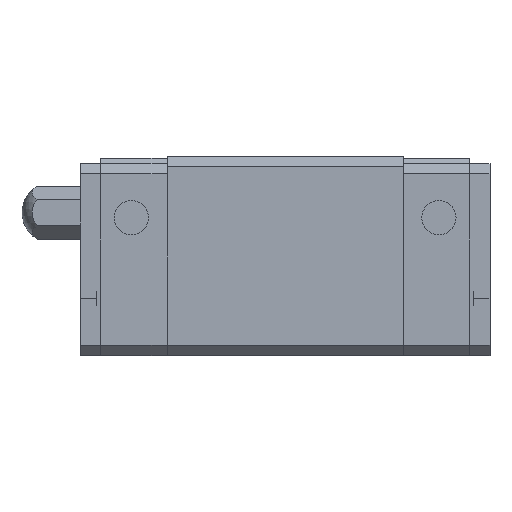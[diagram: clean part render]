
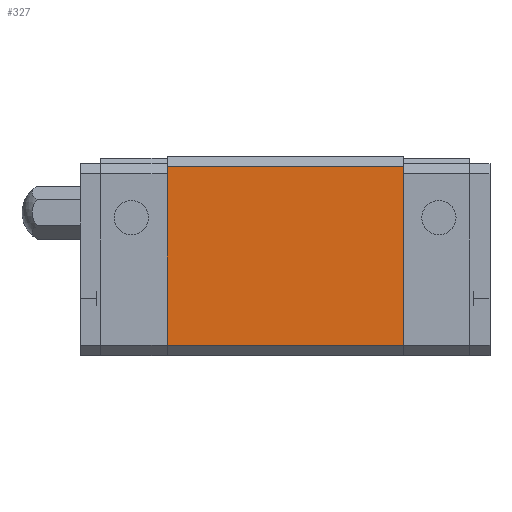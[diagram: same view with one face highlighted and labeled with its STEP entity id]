
A CAD part, front view. The second image highlights one B-rep face of the part: STEP entity #327.
In plain terms, the highlighted planar face has unit normal (0, -1, 0).
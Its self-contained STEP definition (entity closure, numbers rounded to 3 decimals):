
#266=CARTESIAN_POINT('POINT18',(31.6,-17.,
   1.));
#267=VERTEX_POINT('VERTEX18',#266);
#274=CARTESIAN_POINT('POINT19',(8.5,-17.,1.
   ));
#275=VERTEX_POINT('VERTEX19',#274);
#276=CARTESIAN_POINT('POS29',(8.5,-17.,1.))
   ;
#277=DIRECTION('DIR42',(1.,0.,0.));
#278=VECTOR('VEC16',#277,1.);
#279=LINE('STRAIGHT16',#276,#278);
#280=EDGE_CURVE('EDGE28',#275,#267,#279,.T.);
#297=CARTESIAN_POINT('POINT20',(31.6,-17.,18.5));
#298=VERTEX_POINT('VERTEX20',#297);
#299=CARTESIAN_POINT('POS32',(31.6,-17.,1.)
   );
#300=DIRECTION('DIR46',(0.,0.,1.));
#301=VECTOR('VEC18',#300,1.);
#302=LINE('STRAIGHT18',#299,#301);
#303=EDGE_CURVE('EDGE30',#267,#298,#302,.T.);
#304=ORIENTED_EDGE('COEDGE51',*,*,#303,.T.);
#305=CARTESIAN_POINT('POINT21',(8.5,-17.,18.5));
#306=VERTEX_POINT('VERTEX21',#305);
#307=CARTESIAN_POINT('POS33',(8.5,-17.,18.5));
#308=DIRECTION('DIR47',(1.,0.,0.));
#309=VECTOR('VEC19',#308,1.);
#310=LINE('STRAIGHT19',#307,#309);
#311=EDGE_CURVE('EDGE31',#306,#298,#310,.T.);
#312=ORIENTED_EDGE('COEDGE52',*,*,#311,.F.);
#313=CARTESIAN_POINT('POS34',(8.5,-17.,1.))
   ;
#314=DIRECTION('DIR48',(0.,0.,1.));
#315=VECTOR('VEC20',#314,1.);
#316=LINE('STRAIGHT20',#313,#315);
#317=EDGE_CURVE('EDGE32',#275,#306,#316,.T.);
#318=ORIENTED_EDGE('COEDGE53',*,*,#317,.F.);
#319=ORIENTED_EDGE('COEDGE54',*,*,#280,.T.);
#320=EDGE_LOOP('NONE',(#304,#312,#318,#319));
#321=FACE_BOUND('LOOP1',#320,.T.);
#322=CARTESIAN_POINT('POS35',(8.5,-17.,1.))
   ;
#323=DIRECTION('DIR49',(0.,-1.,0.));
#324=DIRECTION('DIR50',(1.,0.,0.));
#325=AXIS2_PLACEMENT_3D('AXIS15',#322,#323,#324);
#326=PLANE('PLANE4',#325);
#327=ADVANCED_FACE('FACE14',(#321),#326,.T.);
